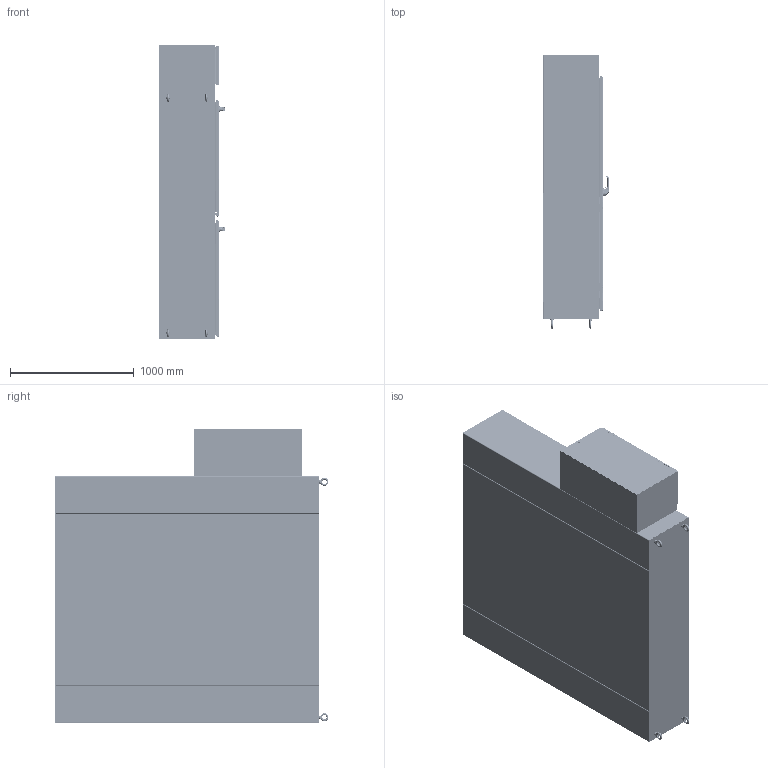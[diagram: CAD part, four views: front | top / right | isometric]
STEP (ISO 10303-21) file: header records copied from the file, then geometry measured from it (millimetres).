
FILE_DESCRIPTION((''),'2;1');
FILE_NAME('MODEL-604_ASM','2025-02-13T10:35:28',('joshi'),('SAGINAW CONTROL & ENGINEERING'),'CREO PARAMETRIC BY PTC INC, 2021284','CREO PARAMETRIC BY PTC INC, 2021284','');
FILE_SCHEMA(('AUTOMOTIVE_DESIGN { 1 0 10303 214 1 1 1 1 }'));
Length unit declared in the file: inch
Products named in the file (181): MODEL-604-RH-TP; MODEL-604-RH-R-SD; MODEL-604-RH-L-SD; MODEL-604-RH-BTM; MODEL-604-RH-BCK; 127619; 100028; 127619_ASM; MODEL-604-RH-CCA-CHNL; MODEL-604-RH-CCA-STIF; 100062; 127618; 127617; 102535; 100057; MODEL-604-RH-CCASSY_ASM; MODEL-604-M-DR; 100837; 111267; 100882; 100953_SCREW_MTG; 100953_PADLOCK_CATCH; 100953_SCREW_LARGE; 100953_INSERT_SHAFT; 100953_INSERT_PCH; 100953_GASKET; 100953_O-RING; 100953_BASE; 100953_SPRING; 100953_HANDLE; 100953_CAM_SHAFT; 100953_HANDLE_ASM; 100953_CAM_ADAPTER; 100953_EARTH_NUT; 100953_FLANGE_NUT; 100953_CAM_NUT; 100953_CP_INSERT; 100953_SPRING_CAM; 100953_TORSION_SPRING; 100953_SCREW_INSERT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
Assembly tree (382 placements, depth 5):
  MODEL-604_ASM
    MODEL-604-RH-TP
    MODEL-604-RH-R-SD
    MODEL-604-RH-L-SD
    MODEL-604-RH-BTM
    MODEL-604-RH-BCK
    127619_ASM  x2
      127619
      100028
    MODEL-604-RH-CCASSY_ASM
      MODEL-604-RH-CCA-CHNL
      MODEL-604-RH-CCA-STIF
      100062  x2
      127618  x2
      127617  x2
      102535  x8
      100057  x2
    MODEL-604-M-DOOR-ASSY_ASM
      MODEL-604-M-DR
      100837  x7
      111267
      100882  x12
      100953_ASM
        100953_SCREW_MTG
        100953_PADLOCK_CATCH
        100953_SCREW_LARGE  x2
        100953_INSERT_SHAFT
        100953_INSERT_PCH
        100953_GASKET
        100953_O-RING
        100953_BASE
        100953_SPRING
        100953_HANDLE_ASM
          100953_HANDLE
          100953_CAM_SHAFT
        100953_CAM_ADAPTER
        100953_EARTH_NUT
        100953_FLANGE_NUT
        100953_CAM_NUT
        100953_CP_INSERT
        100953_SPRING_CAM
        100953_TORSION_SPRING
        100953_SCREW_INSERT
      102237_ASM
        102237
        100030  x2
      MODEL-604-ROD-UPR-MD_ASM
        MODEL-604-ROD-UPR-MD
        128146
        128145
        128144
        102482  x2
      128143  x2
      112504  x2
      MODEL-604-ROD-LWR-MD_ASM
        MODEL-604-ROD-LWR-MD
        128146
        128145
        128144
        102482  x2
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Bounding box: 535.27 x 2208.4 x 2381.25 mm (x, y, z)
Volume: 58025359.5 mm3; surface area: 39407962.8 mm2
Topology: 404 solids, 404 shells, 31960 faces, 81522 edges, 50419 vertices
Faces by surface type: plane 11329, cylinder 8058, bspline 7772, torus 2277, cone 1636, sphere 828, extrusion 60
Entity records: 756040 total; most frequent: CARTESIAN_POINT 297437, ORIENTED_EDGE 69428, DIRECTION 64695, PRESENTATION_STYLE_ASSIGNMENT 35031, STYLED_ITEM 34745, EDGE_CURVE 34714, CURVE_STYLE 34504, AXIS2_PLACEMENT_3D 24128
